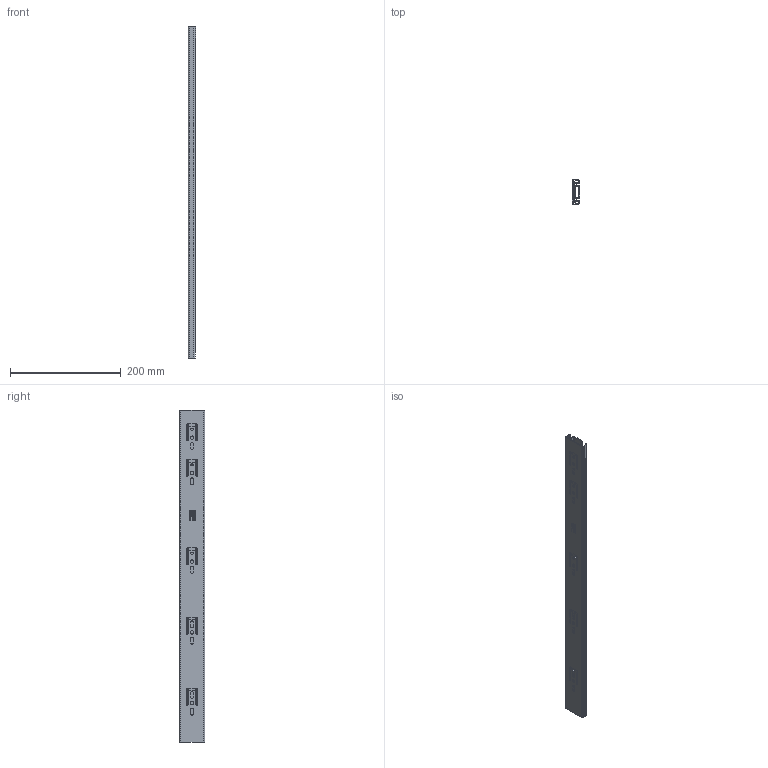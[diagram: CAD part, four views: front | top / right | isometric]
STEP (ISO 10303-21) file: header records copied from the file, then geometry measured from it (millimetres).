
FILE_DESCRIPTION (( 'STEP AP214' ), '1' );
FILE_NAME ('DS600STD-CLOSED.STEP', '2018-11-01T15:05:25', ( '' ), ( '' ), 'SwSTEP 2.0', 'SolidWorks 2017', '' );
FILE_SCHEMA (( 'AUTOMOTIVE_DESIGN' ));
Length unit declared in the file: millimetre
Products named in the file (4): DS-STD-3_600; DS600STD-CLOSED; DS-STD-2_600; DS-STD-1_600
Assembly tree (3 placements, depth 2):
  DS600STD-CLOSED
    DS-STD-3_600
    DS-STD-2_600
    DS-STD-1_600
Bounding box: 12.71 x 45.5 x 600 mm (x, y, z)
Volume: 112585.4 mm3; surface area: 185746 mm2
Topology: 3 solids, 3 shells, 845 faces, 2319 edges, 1546 vertices
Faces by surface type: plane 489, bspline 237, cylinder 119
Entity records: 28511 total; most frequent: CARTESIAN_POINT 8145, ORIENTED_EDGE 4638, DIRECTION 3311, EDGE_CURVE 2319, LINE 1607, VECTOR 1607, VERTEX_POINT 1546, EDGE_LOOP 969
